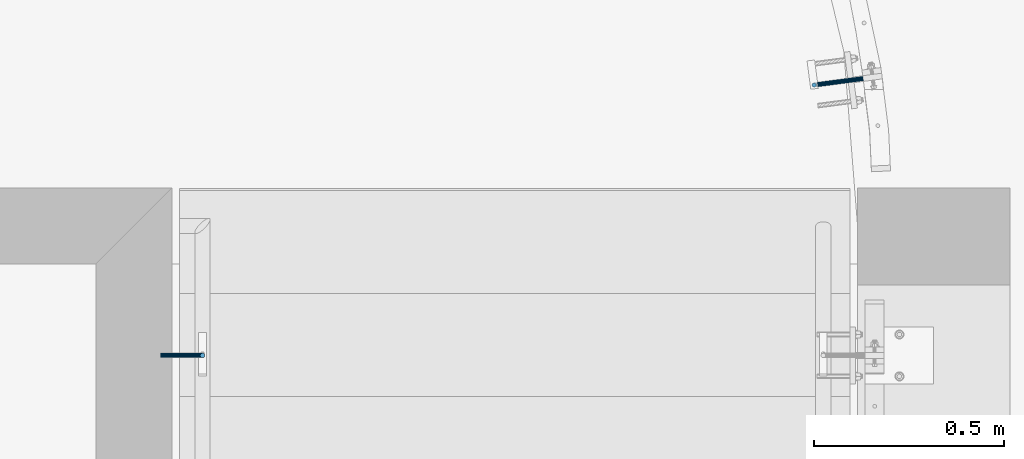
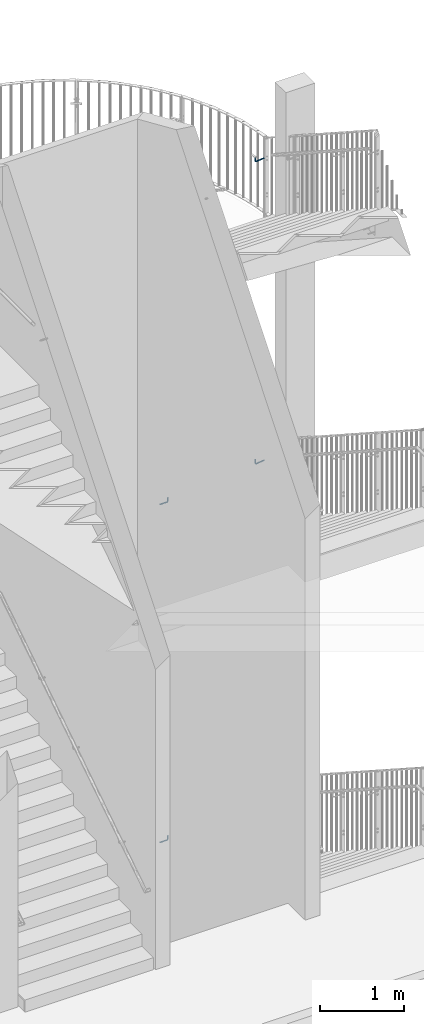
# One storey, part 143 of 296: 4 beams.
"""IFC2X3 building model written with IfcOpenShell, lengths in millimetres."""

from ifc_helpers import new_model, entity, si_unit, converted_unit, origin_with_axes, place, context, project, spatial, faceted_brep, material, element, save


model = new_model("IFC2X3")

# Units and contexts
model_context = context("Model", 3, precision=1e-09, world=origin_with_axes())
ifc_project = project(units=[si_unit("LENGTHUNIT", "METRE", prefix="MILLI"), si_unit("AREAUNIT", "SQUARE_METRE"), si_unit("VOLUMEUNIT", "CUBIC_METRE"), converted_unit("PLANEANGLEUNIT", "DEGREE", entity("IfcPlaneAngleMeasure", 0.01745329), si_unit("PLANEANGLEUNIT", "RADIAN"), dimensions=[0, 0, 0, 0, 0, 0, 0])], contexts=[model_context])

# Site, building, storey
site_placement = place(None, origin_with_axes())
site = spatial("IfcSite", under=ifc_project, at=site_placement, Name="TZD-S?d | Treppenhausgel?nder", CompositionType="ELEMENT")
building_placement = place(site_placement, origin_with_axes())
building = spatial("IfcBuilding", under=site, at=building_placement, Name="Struktur 1", CompositionType="ELEMENT")
storey_placement = place(building_placement, origin_with_axes())
storey = spatial("IfcBuildingStorey", under=building, at=storey_placement, Name="Default Storey", CompositionType="ELEMENT", Elevation=0.0)

# Beams
ifc_material = material(Name="S235JR")
beam_1_placement = place(None, origin_with_axes())
element("IfcBeam", 1, at=beam_1_placement, inside=storey, material=ifc_material, Name="-", ObjectType="-", context=model_context, shape_type="Brep", body=[
    faceted_brep([(5730.550029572, 267.041754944, 12585.0), (5732.093613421, 265.281634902, 12585.0), (5734.193267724, 264.246199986, 12585.0), (5736.529339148, 264.093085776, 12585.0), (5738.746181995, 264.845602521, 12585.0), (5740.506302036, 266.38918637, 12585.0), (5741.541736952, 268.488840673, 12585.0), (5741.694851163, 270.824912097, 12585.0), (5740.942334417, 273.041754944, 12585.0), (5739.398750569, 274.801874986, 12585.0), (5737.299096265, 275.837309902, 12585.0), (5734.963024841, 275.990424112, 12585.0), (5732.746181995, 275.237907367, 12585.0), (5730.986061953, 273.694323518, 12585.0), (5729.950627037, 271.594669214, 12585.0), (5729.797512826, 269.258597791, 12585.0), (5865.187789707, 282.803815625, 12515.757359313), (5864.933715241, 284.733702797, 12514.456722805), (5864.634013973, 287.010159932, 12514.0), (5864.334312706, 289.286617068, 12514.456722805), (5864.080238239, 291.21650424, 12515.757359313), (5863.910471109, 292.506013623, 12517.703899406), (5863.85085682, 292.958829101, 12520.0), (5863.910471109, 292.506013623, 12522.296100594), (5864.080238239, 291.21650424, 12524.242640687), (5864.334312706, 289.286617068, 12525.543277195), (5864.634013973, 287.010159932, 12526.0), (5864.933715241, 284.733702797, 12525.543277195), (5865.187789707, 282.803815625, 12524.242640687), (5865.357556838, 281.514306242, 12522.296100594), (5865.417171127, 281.061490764, 12520.0), (5865.357556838, 281.514306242, 12517.703899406), (5730.550029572, 267.041754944, 12540.0), (5732.093613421, 265.281634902, 12540.0), (5734.193267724, 264.246199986, 12540.0), (5736.529339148, 264.093085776, 12540.0), (5738.746181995, 264.845602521, 12540.0), (5740.506302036, 266.38918637, 12540.0), (5741.541736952, 268.488840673, 12540.0), (5741.694851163, 270.824912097, 12540.0), (5740.942334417, 273.041754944, 12540.0), (5739.398750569, 274.801874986, 12540.0), (5737.299096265, 275.837309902, 12540.0), (5734.963024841, 275.990424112, 12540.0), (5732.746181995, 275.237907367, 12540.0), (5730.986061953, 273.694323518, 12540.0), (5729.950627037, 271.594669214, 12540.0), (5729.797512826, 269.258597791, 12540.0), (5732.477761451, 267.29554566, 12530.225011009), (5733.923187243, 265.522502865, 12530.722743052), (5735.875937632, 264.467727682, 12531.467651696), (5738.038724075, 264.291800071, 12532.346331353), (5740.08228194, 265.021503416, 12533.225011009), (5741.695498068, 266.545746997, 12533.969919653), (5742.632774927, 268.632478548, 12534.467651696), (5742.751420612, 270.964012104, 12534.642431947), (5742.033372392, 273.185392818, 12534.467651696), (5740.5879466, 274.958435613, 12533.969919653), (5738.635196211, 276.013210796, 12533.225011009), (5736.472409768, 276.189138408, 12532.346331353), (5734.428851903, 275.459435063, 12531.467651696), (5732.815635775, 273.935191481, 12530.722743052), (5731.878358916, 271.848459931, 12530.225011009), (5731.759713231, 269.516926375, 12530.050230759), (5737.967477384, 268.018280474, 12521.938175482), (5739.133372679, 266.208436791, 12522.857864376), (5740.667776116, 265.098585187, 12524.234276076), (5742.337088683, 264.857690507, 12525.857864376), (5743.887172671, 265.522426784, 12527.481452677), (5745.082041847, 266.991593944, 12528.857864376), (5745.739788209, 269.041524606, 12529.777553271), (5745.760275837, 271.360135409, 12530.100505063), (5745.140385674, 273.594438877, 12529.777553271), (5743.974490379, 275.40428256, 12528.857864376), (5742.440086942, 276.514134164, 12527.481452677), (5740.770774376, 276.755028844, 12525.857864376), (5739.220690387, 276.090292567, 12524.234276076), (5738.025821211, 274.621125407, 12522.857864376), (5737.368074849, 272.571194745, 12521.938175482), (5737.347587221, 270.252583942, 12521.615223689), (5746.183417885, 269.099929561, 12516.401089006), (5746.930966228, 267.235009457, 12517.602720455), (5747.839269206, 266.042730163, 12519.401089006), (5748.770045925, 265.704605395, 12521.52240935), (5749.581594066, 266.272111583, 12523.643729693), (5750.150362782, 267.658851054, 12525.442098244), (5750.389762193, 269.653705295, 12526.643729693), (5750.263345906, 271.952975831, 12527.065686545), (5749.790359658, 274.206619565, 12526.643729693), (5749.042811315, 276.07153967, 12525.442098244), (5748.134508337, 277.263818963, 12523.643729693), (5747.203731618, 277.601943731, 12521.52240935), (5746.392183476, 277.034437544, 12519.401089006), (5745.82341476, 275.647698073, 12517.602720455), (5745.58401535, 273.652843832, 12516.401089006), (5745.710431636, 271.353573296, 12515.979132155), (5755.87478049, 270.375821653, 12514.456722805), (5756.128854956, 268.44593448, 12515.757359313), (5756.298622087, 267.156425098, 12517.703899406), (5756.358236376, 266.70360962, 12520.0), (5756.298622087, 267.156425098, 12522.296100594), (5756.128854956, 268.44593448, 12524.242640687), (5755.87478049, 270.375821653, 12525.543277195), (5755.575079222, 272.652278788, 12526.0), (5755.275377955, 274.928735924, 12525.543277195), (5755.021303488, 276.858623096, 12524.242640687), (5754.851536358, 278.148132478, 12522.296100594), (5754.791922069, 278.600947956, 12520.0), (5754.851536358, 278.148132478, 12517.703899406), (5755.021303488, 276.858623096, 12515.757359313), (5755.275377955, 274.928735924, 12514.456722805), (5755.575079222, 272.652278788, 12514.0)], [[[0, 1, 2, 3, 4, 5, 6, 7, 8, 9, 10, 11, 12, 13, 14, 15]], [[16, 17, 18, 19, 20, 21, 22, 23, 24, 25, 26, 27, 28, 29, 30, 31]], [[1, 0, 32, 33]], [[2, 1, 33, 34]], [[3, 2, 34, 35]], [[4, 3, 35, 36]], [[5, 4, 36, 37]], [[6, 5, 37, 38]], [[7, 6, 38, 39]], [[8, 7, 39, 40]], [[9, 8, 40, 41]], [[10, 9, 41, 42]], [[11, 10, 42, 43]], [[12, 11, 43, 44]], [[13, 12, 44, 45]], [[14, 13, 45, 46]], [[15, 14, 46, 47]], [[0, 15, 47, 32]], [[33, 32, 48, 49]], [[34, 33, 49, 50]], [[35, 34, 50, 51]], [[36, 35, 51, 52]], [[37, 36, 52, 53]], [[38, 37, 53, 54]], [[39, 38, 54, 55]], [[40, 39, 55, 56]], [[41, 40, 56, 57]], [[42, 41, 57, 58]], [[43, 42, 58, 59]], [[44, 43, 59, 60]], [[45, 44, 60, 61]], [[46, 45, 61, 62]], [[47, 46, 62, 63]], [[32, 47, 63, 48]], [[49, 48, 64, 65]], [[50, 49, 65, 66]], [[51, 50, 66, 67]], [[52, 51, 67, 68]], [[53, 52, 68, 69]], [[54, 53, 69, 70]], [[55, 54, 70, 71]], [[56, 55, 71, 72]], [[57, 56, 72, 73]], [[58, 57, 73, 74]], [[59, 58, 74, 75]], [[60, 59, 75, 76]], [[61, 60, 76, 77]], [[62, 61, 77, 78]], [[63, 62, 78, 79]], [[48, 63, 79, 64]], [[65, 64, 80, 81]], [[66, 65, 81, 82]], [[67, 66, 82, 83]], [[68, 67, 83, 84]], [[69, 68, 84, 85]], [[70, 69, 85, 86]], [[71, 70, 86, 87]], [[72, 71, 87, 88]], [[73, 72, 88, 89]], [[74, 73, 89, 90]], [[75, 74, 90, 91]], [[76, 75, 91, 92]], [[77, 76, 92, 93]], [[78, 77, 93, 94]], [[79, 78, 94, 95]], [[64, 79, 95, 80]], [[81, 80, 96, 97]], [[82, 81, 97, 98]], [[83, 82, 98, 99]], [[84, 83, 99, 100]], [[85, 84, 100, 101]], [[86, 85, 101, 102]], [[87, 86, 102, 103]], [[88, 87, 103, 104]], [[89, 88, 104, 105]], [[90, 89, 105, 106]], [[91, 90, 106, 107]], [[92, 91, 107, 108]], [[93, 92, 108, 109]], [[94, 93, 109, 110]], [[95, 94, 110, 111]], [[80, 95, 111, 96]], [[97, 96, 17, 16]], [[98, 97, 16, 31]], [[99, 98, 31, 30]], [[100, 99, 30, 29]], [[101, 100, 29, 28]], [[102, 101, 28, 27]], [[103, 102, 27, 26]], [[104, 103, 26, 25]], [[105, 104, 25, 24]], [[106, 105, 24, 23]], [[107, 106, 23, 22]], [[108, 107, 22, 21]], [[109, 108, 21, 20]], [[110, 109, 20, 19]], [[111, 110, 19, 18]], [[96, 111, 18, 17]]]),
])
beam_2_placement = place(None, origin_with_axes())
element("IfcBeam", 2, at=beam_2_placement, inside=storey, material=ifc_material, Name="-", ObjectType="-", context=model_context, shape_type="Brep", body=[
    faceted_brep([(5730.550029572, 267.041754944, 8210.0), (5732.093613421, 265.281634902, 8210.0), (5734.193267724, 264.246199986, 8210.0), (5736.529339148, 264.093085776, 8210.0), (5738.746181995, 264.845602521, 8210.0), (5740.506302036, 266.38918637, 8210.0), (5741.541736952, 268.488840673, 8210.0), (5741.694851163, 270.824912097, 8210.0), (5740.942334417, 273.041754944, 8210.0), (5739.398750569, 274.801874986, 8210.0), (5737.299096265, 275.837309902, 8210.0), (5734.963024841, 275.990424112, 8210.0), (5732.746181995, 275.237907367, 8210.0), (5730.986061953, 273.694323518, 8210.0), (5729.950627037, 271.594669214, 8210.0), (5729.797512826, 269.258597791, 8210.0), (5865.187789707, 282.803815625, 8140.757359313), (5864.933715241, 284.733702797, 8139.456722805), (5864.634013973, 287.010159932, 8139.0), (5864.334312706, 289.286617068, 8139.456722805), (5864.080238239, 291.21650424, 8140.757359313), (5863.910471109, 292.506013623, 8142.703899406), (5863.85085682, 292.958829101, 8145.0), (5863.910471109, 292.506013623, 8147.296100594), (5864.080238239, 291.21650424, 8149.242640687), (5864.334312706, 289.286617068, 8150.543277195), (5864.634013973, 287.010159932, 8151.0), (5864.933715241, 284.733702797, 8150.543277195), (5865.187789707, 282.803815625, 8149.242640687), (5865.357556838, 281.514306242, 8147.296100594), (5865.417171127, 281.061490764, 8145.0), (5865.357556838, 281.514306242, 8142.703899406), (5730.550029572, 267.041754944, 8165.0), (5732.093613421, 265.281634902, 8165.0), (5734.193267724, 264.246199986, 8165.0), (5736.529339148, 264.093085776, 8165.0), (5738.746181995, 264.845602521, 8165.0), (5740.506302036, 266.38918637, 8165.0), (5741.541736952, 268.488840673, 8165.0), (5741.694851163, 270.824912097, 8165.0), (5740.942334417, 273.041754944, 8165.0), (5739.398750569, 274.801874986, 8165.0), (5737.299096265, 275.837309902, 8165.0), (5734.963024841, 275.990424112, 8165.0), (5732.746181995, 275.237907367, 8165.0), (5730.986061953, 273.694323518, 8165.0), (5729.950627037, 271.594669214, 8165.0), (5729.797512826, 269.258597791, 8165.0), (5732.477761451, 267.29554566, 8155.225011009), (5733.923187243, 265.522502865, 8155.722743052), (5735.875937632, 264.467727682, 8156.467651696), (5738.038724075, 264.291800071, 8157.346331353), (5740.08228194, 265.021503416, 8158.225011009), (5741.695498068, 266.545746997, 8158.969919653), (5742.632774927, 268.632478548, 8159.467651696), (5742.751420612, 270.964012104, 8159.642431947), (5742.033372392, 273.185392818, 8159.467651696), (5740.5879466, 274.958435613, 8158.969919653), (5738.635196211, 276.013210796, 8158.225011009), (5736.472409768, 276.189138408, 8157.346331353), (5734.428851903, 275.459435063, 8156.467651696), (5732.815635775, 273.935191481, 8155.722743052), (5731.878358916, 271.848459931, 8155.225011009), (5731.759713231, 269.516926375, 8155.050230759), (5737.967477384, 268.018280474, 8146.938175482), (5739.133372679, 266.208436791, 8147.857864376), (5740.667776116, 265.098585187, 8149.234276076), (5742.337088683, 264.857690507, 8150.857864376), (5743.887172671, 265.522426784, 8152.481452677), (5745.082041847, 266.991593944, 8153.857864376), (5745.739788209, 269.041524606, 8154.777553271), (5745.760275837, 271.360135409, 8155.100505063), (5745.140385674, 273.594438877, 8154.777553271), (5743.974490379, 275.40428256, 8153.857864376), (5742.440086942, 276.514134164, 8152.481452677), (5740.770774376, 276.755028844, 8150.857864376), (5739.220690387, 276.090292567, 8149.234276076), (5738.025821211, 274.621125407, 8147.857864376), (5737.368074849, 272.571194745, 8146.938175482), (5737.347587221, 270.252583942, 8146.615223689), (5746.183417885, 269.099929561, 8141.401089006), (5746.930966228, 267.235009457, 8142.602720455), (5747.839269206, 266.042730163, 8144.401089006), (5748.770045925, 265.704605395, 8146.52240935), (5749.581594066, 266.272111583, 8148.643729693), (5750.150362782, 267.658851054, 8150.442098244), (5750.389762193, 269.653705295, 8151.643729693), (5750.263345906, 271.952975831, 8152.065686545), (5749.790359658, 274.206619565, 8151.643729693), (5749.042811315, 276.07153967, 8150.442098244), (5748.134508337, 277.263818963, 8148.643729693), (5747.203731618, 277.601943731, 8146.52240935), (5746.392183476, 277.034437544, 8144.401089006), (5745.82341476, 275.647698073, 8142.602720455), (5745.58401535, 273.652843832, 8141.401089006), (5745.710431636, 271.353573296, 8140.979132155), (5755.87478049, 270.375821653, 8139.456722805), (5756.128854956, 268.44593448, 8140.757359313), (5756.298622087, 267.156425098, 8142.703899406), (5756.358236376, 266.70360962, 8145.0), (5756.298622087, 267.156425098, 8147.296100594), (5756.128854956, 268.44593448, 8149.242640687), (5755.87478049, 270.375821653, 8150.543277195), (5755.575079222, 272.652278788, 8151.0), (5755.275377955, 274.928735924, 8150.543277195), (5755.021303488, 276.858623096, 8149.242640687), (5754.851536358, 278.148132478, 8147.296100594), (5754.791922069, 278.600947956, 8145.0), (5754.851536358, 278.148132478, 8142.703899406), (5755.021303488, 276.858623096, 8140.757359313), (5755.275377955, 274.928735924, 8139.456722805), (5755.575079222, 272.652278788, 8139.0)], [[[0, 1, 2, 3, 4, 5, 6, 7, 8, 9, 10, 11, 12, 13, 14, 15]], [[16, 17, 18, 19, 20, 21, 22, 23, 24, 25, 26, 27, 28, 29, 30, 31]], [[1, 0, 32, 33]], [[2, 1, 33, 34]], [[3, 2, 34, 35]], [[4, 3, 35, 36]], [[5, 4, 36, 37]], [[6, 5, 37, 38]], [[7, 6, 38, 39]], [[8, 7, 39, 40]], [[9, 8, 40, 41]], [[10, 9, 41, 42]], [[11, 10, 42, 43]], [[12, 11, 43, 44]], [[13, 12, 44, 45]], [[14, 13, 45, 46]], [[15, 14, 46, 47]], [[0, 15, 47, 32]], [[33, 32, 48, 49]], [[34, 33, 49, 50]], [[35, 34, 50, 51]], [[36, 35, 51, 52]], [[37, 36, 52, 53]], [[38, 37, 53, 54]], [[39, 38, 54, 55]], [[40, 39, 55, 56]], [[41, 40, 56, 57]], [[42, 41, 57, 58]], [[43, 42, 58, 59]], [[44, 43, 59, 60]], [[45, 44, 60, 61]], [[46, 45, 61, 62]], [[47, 46, 62, 63]], [[32, 47, 63, 48]], [[49, 48, 64, 65]], [[50, 49, 65, 66]], [[51, 50, 66, 67]], [[52, 51, 67, 68]], [[53, 52, 68, 69]], [[54, 53, 69, 70]], [[55, 54, 70, 71]], [[56, 55, 71, 72]], [[57, 56, 72, 73]], [[58, 57, 73, 74]], [[59, 58, 74, 75]], [[60, 59, 75, 76]], [[61, 60, 76, 77]], [[62, 61, 77, 78]], [[63, 62, 78, 79]], [[48, 63, 79, 64]], [[65, 64, 80, 81]], [[66, 65, 81, 82]], [[67, 66, 82, 83]], [[68, 67, 83, 84]], [[69, 68, 84, 85]], [[70, 69, 85, 86]], [[71, 70, 86, 87]], [[72, 71, 87, 88]], [[73, 72, 88, 89]], [[74, 73, 89, 90]], [[75, 74, 90, 91]], [[76, 75, 91, 92]], [[77, 76, 92, 93]], [[78, 77, 93, 94]], [[79, 78, 94, 95]], [[64, 79, 95, 80]], [[81, 80, 96, 97]], [[82, 81, 97, 98]], [[83, 82, 98, 99]], [[84, 83, 99, 100]], [[85, 84, 100, 101]], [[86, 85, 101, 102]], [[87, 86, 102, 103]], [[88, 87, 103, 104]], [[89, 88, 104, 105]], [[90, 89, 105, 106]], [[91, 90, 106, 107]], [[92, 91, 107, 108]], [[93, 92, 108, 109]], [[94, 93, 109, 110]], [[95, 94, 110, 111]], [[80, 95, 111, 96]], [[97, 96, 17, 16]], [[98, 97, 16, 31]], [[99, 98, 31, 30]], [[100, 99, 30, 29]], [[101, 100, 29, 28]], [[102, 101, 28, 27]], [[103, 102, 27, 26]], [[104, 103, 26, 25]], [[105, 104, 25, 24]], [[106, 105, 24, 23]], [[107, 106, 23, 22]], [[108, 107, 22, 21]], [[109, 108, 21, 20]], [[110, 109, 20, 19]], [[111, 110, 19, 18]], [[96, 111, 18, 17]]]),
])
beam_3_placement = place(None, origin_with_axes())
element("IfcBeam", 3, at=beam_3_placement, inside=storey, material=ifc_material, Name="-", ObjectType="-", context=model_context, shape_type="Brep", body=[
    faceted_brep([(4133.105419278, -445.00183956, 8657.521152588), (4126.892580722, -445.00183956, 8657.521152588), (4127.702899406, -445.543277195, 8657.521152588), (4129.999, -446.0, 8657.521152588), (4132.295100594, -445.543277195, 8657.521152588), (4135.542277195, -442.296100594, 8655.76874811), (4134.241640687, -444.242640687, 8657.029448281), (4134.241640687, -444.242640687, 8612.521152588), (4135.542277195, -442.296100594, 8612.521152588), (4132.295100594, -445.543277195, 8612.521152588), (4129.999, -446.0, 8612.521152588), (4127.702899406, -445.543277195, 8612.521152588), (4125.756359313, -444.242640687, 8657.029448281), (4125.756359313, -444.242640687, 8612.521152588), (4124.455722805, -442.296100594, 8655.76874811), (4124.455722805, -442.296100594, 8612.521152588), (4123.999, -440.0, 8654.281650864), (4123.999, -440.0, 8612.521152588), (4124.455722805, -437.703899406, 8652.794553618), (4124.455722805, -437.703899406, 8612.521152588), (4125.756359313, -435.757359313, 8651.533853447), (4125.756359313, -435.757359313, 8612.521152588), (4127.702899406, -434.456722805, 8650.691480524), (4127.702899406, -434.456722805, 8612.521152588), (4129.999, -434.0, 8650.39567849), (4129.999, -434.0, 8612.521152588), (4132.295100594, -434.456722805, 8650.691480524), (4132.295100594, -434.456722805, 8612.521152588), (4134.241640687, -435.757359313, 8651.533853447), (4134.241640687, -435.757359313, 8612.521152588), (4135.542277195, -437.703899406, 8652.794553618), (4135.542277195, -437.703899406, 8612.521152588), (4135.999, -440.0, 8654.281650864), (4135.999, -440.0, 8612.521152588), (4019.999, -442.296100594, 8586.977875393), (4019.999, -444.242640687, 8588.278511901), (4019.999, -445.543277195, 8590.225051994), (4019.999, -446.0, 8592.521152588), (4019.999, -445.543277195, 8594.817253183), (4019.999, -444.242640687, 8596.763793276), (4019.999, -442.296100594, 8598.064429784), (4019.999, -440.0, 8598.521152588), (4019.999, -437.703899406, 8598.064429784), (4019.999, -435.757359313, 8596.763793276), (4019.999, -434.456722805, 8594.817253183), (4019.999, -434.0, 8592.521152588), (4019.999, -434.456722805, 8590.225051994), (4019.999, -435.757359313, 8588.278511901), (4019.999, -437.703899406, 8586.977875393), (4019.999, -440.0, 8586.521152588), (4132.396279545, -444.242640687, 8603.243895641), (4133.597910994, -442.296100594, 8602.746163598), (4130.597910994, -445.543277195, 8603.988804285), (4128.47659065, -446.0, 8604.867483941), (4126.355270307, -445.543277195, 8605.746163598), (4124.556901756, -444.242640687, 8606.491072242), (4123.355270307, -442.296100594, 8606.988804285), (4122.933313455, -440.0, 8607.163584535), (4123.355270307, -437.703899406, 8606.988804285), (4124.556901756, -435.757359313, 8606.491072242), (4126.355270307, -434.456722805, 8605.746163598), (4128.47659065, -434.0, 8604.867483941), (4130.597910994, -434.456722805, 8603.988804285), (4132.396279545, -435.757359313, 8603.243895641), (4133.597910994, -437.703899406, 8602.746163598), (4134.019867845, -440.0, 8602.571383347), (4127.141135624, -444.242640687, 8595.379016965), (4128.060824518, -442.296100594, 8594.45932807), (4125.764723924, -445.543277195, 8596.755428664), (4124.141135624, -446.0, 8598.379016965), (4122.517547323, -445.543277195, 8600.002605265), (4121.141135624, -444.242640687, 8601.379016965), (4120.221446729, -442.296100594, 8602.298705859), (4119.898494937, -440.0, 8602.621657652), (4120.221446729, -437.703899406, 8602.298705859), (4121.141135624, -435.757359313, 8601.379016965), (4122.517547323, -434.456722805, 8600.002605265), (4124.141135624, -434.0, 8598.379016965), (4125.764723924, -434.456722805, 8596.755428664), (4127.141135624, -435.757359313, 8595.379016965), (4128.060824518, -437.703899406, 8594.45932807), (4128.383776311, -440.0, 8594.136376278), (4119.276256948, -444.242640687, 8590.123873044), (4119.773988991, -442.296100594, 8588.922241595), (4118.531348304, -445.543277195, 8591.922241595), (4117.652668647, -446.0, 8594.043561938), (4116.773988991, -445.543277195, 8596.164882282), (4116.029080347, -444.242640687, 8597.963250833), (4115.531348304, -442.296100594, 8599.164882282), (4115.356568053, -440.0, 8599.586839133), (4115.531348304, -437.703899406, 8599.164882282), (4116.029080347, -435.757359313, 8597.963250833), (4116.773988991, -434.456722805, 8596.164882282), (4117.652668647, -434.0, 8594.043561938), (4118.531348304, -434.456722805, 8591.922241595), (4119.276256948, -435.757359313, 8590.123873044), (4119.773988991, -437.703899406, 8588.922241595), (4119.948769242, -440.0, 8588.500284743), (4109.999, -444.242640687, 8588.278511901), (4109.999, -442.296100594, 8586.977875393), (4109.999, -445.543277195, 8590.225051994), (4109.999, -446.0, 8592.521152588), (4109.999, -445.543277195, 8594.817253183), (4109.999, -444.242640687, 8596.763793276), (4109.999, -442.296100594, 8598.064429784), (4109.999, -440.0, 8598.521152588), (4109.999, -437.703899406, 8598.064429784), (4109.999, -435.757359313, 8596.763793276), (4109.999, -434.456722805, 8594.817253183), (4109.999, -434.0, 8592.521152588), (4109.999, -434.456722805, 8590.225051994), (4109.999, -435.757359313, 8588.278511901), (4109.999, -437.703899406, 8586.977875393), (4109.999, -440.0, 8586.521152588)], [[[0, 1, 2, 3, 4]], [[5, 6, 7, 8]], [[6, 0, 4, 9, 7]], [[4, 3, 10, 9]], [[3, 2, 11, 10]], [[1, 12, 13, 11, 2]], [[12, 14, 15, 13]], [[14, 16, 17, 15]], [[16, 18, 19, 17]], [[18, 20, 21, 19]], [[20, 22, 23, 21]], [[22, 24, 25, 23]], [[24, 26, 27, 25]], [[26, 28, 29, 27]], [[28, 30, 31, 29]], [[30, 32, 33, 31]], [[32, 5, 8, 33]], [[16, 14, 12, 1, 0, 6, 5, 32, 30, 28, 26, 24, 22, 20, 18]], [[34, 35, 36, 37, 38, 39, 40, 41, 42, 43, 44, 45, 46, 47, 48, 49]], [[8, 7, 50, 51]], [[7, 9, 52, 50]], [[9, 10, 53, 52]], [[10, 11, 54, 53]], [[11, 13, 55, 54]], [[13, 15, 56, 55]], [[15, 17, 57, 56]], [[17, 19, 58, 57]], [[19, 21, 59, 58]], [[21, 23, 60, 59]], [[23, 25, 61, 60]], [[25, 27, 62, 61]], [[27, 29, 63, 62]], [[29, 31, 64, 63]], [[31, 33, 65, 64]], [[33, 8, 51, 65]], [[51, 50, 66, 67]], [[50, 52, 68, 66]], [[52, 53, 69, 68]], [[53, 54, 70, 69]], [[54, 55, 71, 70]], [[55, 56, 72, 71]], [[56, 57, 73, 72]], [[57, 58, 74, 73]], [[58, 59, 75, 74]], [[59, 60, 76, 75]], [[60, 61, 77, 76]], [[61, 62, 78, 77]], [[62, 63, 79, 78]], [[63, 64, 80, 79]], [[64, 65, 81, 80]], [[65, 51, 67, 81]], [[67, 66, 82, 83]], [[66, 68, 84, 82]], [[68, 69, 85, 84]], [[69, 70, 86, 85]], [[70, 71, 87, 86]], [[71, 72, 88, 87]], [[72, 73, 89, 88]], [[73, 74, 90, 89]], [[74, 75, 91, 90]], [[75, 76, 92, 91]], [[76, 77, 93, 92]], [[77, 78, 94, 93]], [[78, 79, 95, 94]], [[79, 80, 96, 95]], [[80, 81, 97, 96]], [[81, 67, 83, 97]], [[83, 82, 98, 99]], [[82, 84, 100, 98]], [[84, 85, 101, 100]], [[85, 86, 102, 101]], [[86, 87, 103, 102]], [[87, 88, 104, 103]], [[88, 89, 105, 104]], [[89, 90, 106, 105]], [[90, 91, 107, 106]], [[91, 92, 108, 107]], [[92, 93, 109, 108]], [[93, 94, 110, 109]], [[94, 95, 111, 110]], [[95, 96, 112, 111]], [[96, 97, 113, 112]], [[97, 83, 99, 113]], [[99, 98, 35, 34]], [[98, 100, 36, 35]], [[100, 101, 37, 36]], [[101, 102, 38, 37]], [[102, 103, 39, 38]], [[103, 104, 40, 39]], [[104, 105, 41, 40]], [[105, 106, 42, 41]], [[106, 107, 43, 42]], [[107, 108, 44, 43]], [[108, 109, 45, 44]], [[109, 110, 46, 45]], [[110, 111, 47, 46]], [[111, 112, 48, 47]], [[112, 113, 49, 48]], [[113, 99, 34, 49]]]),
])
beam_4_placement = place(None, origin_with_axes())
element("IfcBeam", 4, at=beam_4_placement, inside=storey, material=ifc_material, Name="-", ObjectType="-", context=model_context, shape_type="Brep", body=[
    faceted_brep([(4133.105415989, -445.001841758, 3764.175393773), (4126.892584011, -445.001841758, 3764.175393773), (4127.702899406, -445.543277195, 3764.175393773), (4129.999, -446.0, 3764.175393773), (4132.295100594, -445.543277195, 3764.175393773), (4135.542277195, -442.296100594, 3762.425953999), (4134.241640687, -444.242640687, 3763.684520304), (4134.241640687, -444.242640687, 3719.175393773), (4135.542277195, -442.296100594, 3719.175393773), (4132.295100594, -445.543277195, 3719.175393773), (4129.999, -446.0, 3719.175393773), (4127.702899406, -445.543277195, 3719.175393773), (4125.756359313, -444.242640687, 3763.684520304), (4125.756359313, -444.242640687, 3719.175393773), (4124.455722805, -442.296100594, 3762.425953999), (4124.455722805, -442.296100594, 3719.175393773), (4123.999, -440.0, 3760.941373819), (4123.999, -440.0, 3719.175393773), (4124.455722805, -437.703899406, 3759.456793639), (4124.455722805, -437.703899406, 3719.175393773), (4125.756359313, -435.757359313, 3758.198227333), (4125.756359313, -435.757359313, 3719.175393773), (4127.702899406, -434.456722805, 3757.357280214), (4127.702899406, -434.456722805, 3719.175393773), (4129.999, -434.0, 3757.061978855), (4129.999, -434.0, 3719.175393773), (4132.295100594, -434.456722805, 3757.357280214), (4132.295100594, -434.456722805, 3719.175393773), (4134.241640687, -435.757359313, 3758.198227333), (4134.241640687, -435.757359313, 3719.175393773), (4135.542277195, -437.703899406, 3759.456793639), (4135.542277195, -437.703899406, 3719.175393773), (4135.999, -440.0, 3760.941373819), (4135.999, -440.0, 3719.175393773), (4019.999, -442.296100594, 3693.632116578), (4019.999, -444.242640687, 3694.932753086), (4019.999, -445.543277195, 3696.879293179), (4019.999, -446.0, 3699.175393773), (4019.999, -445.543277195, 3701.471494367), (4019.999, -444.242640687, 3703.41803446), (4019.999, -442.296100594, 3704.718670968), (4019.999, -440.0, 3705.175393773), (4019.999, -437.703899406, 3704.718670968), (4019.999, -435.757359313, 3703.41803446), (4019.999, -434.456722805, 3701.471494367), (4019.999, -434.0, 3699.175393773), (4019.999, -434.456722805, 3696.879293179), (4019.999, -435.757359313, 3694.932753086), (4019.999, -437.703899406, 3693.632116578), (4019.999, -440.0, 3693.175393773), (4132.396279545, -444.242640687, 3709.898136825), (4133.597910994, -442.296100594, 3709.400404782), (4130.597910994, -445.543277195, 3710.643045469), (4128.47659065, -446.0, 3711.521725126), (4126.355270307, -445.543277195, 3712.400404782), (4124.556901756, -444.242640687, 3713.145313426), (4123.355270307, -442.296100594, 3713.643045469), (4122.933313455, -440.0, 3713.81782572), (4123.355270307, -437.703899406, 3713.643045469), (4124.556901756, -435.757359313, 3713.145313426), (4126.355270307, -434.456722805, 3712.400404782), (4128.47659065, -434.0, 3711.521725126), (4130.597910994, -434.456722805, 3710.643045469), (4132.396279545, -435.757359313, 3709.898136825), (4133.597910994, -437.703899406, 3709.400404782), (4134.019867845, -440.0, 3709.225624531), (4127.141135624, -444.242640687, 3702.033258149), (4128.060824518, -442.296100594, 3701.113569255), (4125.764723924, -445.543277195, 3703.409669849), (4124.141135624, -446.0, 3705.033258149), (4122.517547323, -445.543277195, 3706.65684645), (4121.141135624, -444.242640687, 3708.033258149), (4120.221446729, -442.296100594, 3708.952947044), (4119.898494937, -440.0, 3709.275898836), (4120.221446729, -437.703899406, 3708.952947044), (4121.141135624, -435.757359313, 3708.033258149), (4122.517547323, -434.456722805, 3706.65684645), (4124.141135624, -434.0, 3705.033258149), (4125.764723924, -434.456722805, 3703.409669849), (4127.141135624, -435.757359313, 3702.033258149), (4128.060824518, -437.703899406, 3701.113569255), (4128.383776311, -440.0, 3700.790617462), (4119.276256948, -444.242640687, 3696.778114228), (4119.773988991, -442.296100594, 3695.576482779), (4118.531348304, -445.543277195, 3698.576482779), (4117.652668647, -446.0, 3700.697803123), (4116.773988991, -445.543277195, 3702.819123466), (4116.029080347, -444.242640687, 3704.617492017), (4115.531348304, -442.296100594, 3705.819123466), (4115.356568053, -440.0, 3706.241080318), (4115.531348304, -437.703899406, 3705.819123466), (4116.029080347, -435.757359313, 3704.617492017), (4116.773988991, -434.456722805, 3702.819123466), (4117.652668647, -434.0, 3700.697803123), (4118.531348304, -434.456722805, 3698.576482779), (4119.276256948, -435.757359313, 3696.778114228), (4119.773988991, -437.703899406, 3695.576482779), (4119.948769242, -440.0, 3695.154525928), (4109.999, -444.242640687, 3694.932753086), (4109.999, -442.296100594, 3693.632116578), (4109.999, -445.543277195, 3696.879293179), (4109.999, -446.0, 3699.175393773), (4109.999, -445.543277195, 3701.471494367), (4109.999, -444.242640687, 3703.41803446), (4109.999, -442.296100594, 3704.718670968), (4109.999, -440.0, 3705.175393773), (4109.999, -437.703899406, 3704.718670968), (4109.999, -435.757359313, 3703.41803446), (4109.999, -434.456722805, 3701.471494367), (4109.999, -434.0, 3699.175393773), (4109.999, -434.456722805, 3696.879293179), (4109.999, -435.757359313, 3694.932753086), (4109.999, -437.703899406, 3693.632116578), (4109.999, -440.0, 3693.175393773)], [[[0, 1, 2, 3, 4]], [[5, 6, 7, 8]], [[6, 0, 4, 9, 7]], [[4, 3, 10, 9]], [[3, 2, 11, 10]], [[1, 12, 13, 11, 2]], [[12, 14, 15, 13]], [[14, 16, 17, 15]], [[16, 18, 19, 17]], [[18, 20, 21, 19]], [[20, 22, 23, 21]], [[22, 24, 25, 23]], [[24, 26, 27, 25]], [[26, 28, 29, 27]], [[28, 30, 31, 29]], [[30, 32, 33, 31]], [[32, 5, 8, 33]], [[16, 14, 12, 1, 0, 6, 5, 32, 30, 28, 26, 24, 22, 20, 18]], [[34, 35, 36, 37, 38, 39, 40, 41, 42, 43, 44, 45, 46, 47, 48, 49]], [[8, 7, 50, 51]], [[7, 9, 52, 50]], [[9, 10, 53, 52]], [[10, 11, 54, 53]], [[11, 13, 55, 54]], [[13, 15, 56, 55]], [[15, 17, 57, 56]], [[17, 19, 58, 57]], [[19, 21, 59, 58]], [[21, 23, 60, 59]], [[23, 25, 61, 60]], [[25, 27, 62, 61]], [[27, 29, 63, 62]], [[29, 31, 64, 63]], [[31, 33, 65, 64]], [[33, 8, 51, 65]], [[51, 50, 66, 67]], [[50, 52, 68, 66]], [[52, 53, 69, 68]], [[53, 54, 70, 69]], [[54, 55, 71, 70]], [[55, 56, 72, 71]], [[56, 57, 73, 72]], [[57, 58, 74, 73]], [[58, 59, 75, 74]], [[59, 60, 76, 75]], [[60, 61, 77, 76]], [[61, 62, 78, 77]], [[62, 63, 79, 78]], [[63, 64, 80, 79]], [[64, 65, 81, 80]], [[65, 51, 67, 81]], [[67, 66, 82, 83]], [[66, 68, 84, 82]], [[68, 69, 85, 84]], [[69, 70, 86, 85]], [[70, 71, 87, 86]], [[71, 72, 88, 87]], [[72, 73, 89, 88]], [[73, 74, 90, 89]], [[74, 75, 91, 90]], [[75, 76, 92, 91]], [[76, 77, 93, 92]], [[77, 78, 94, 93]], [[78, 79, 95, 94]], [[79, 80, 96, 95]], [[80, 81, 97, 96]], [[81, 67, 83, 97]], [[83, 82, 98, 99]], [[82, 84, 100, 98]], [[84, 85, 101, 100]], [[85, 86, 102, 101]], [[86, 87, 103, 102]], [[87, 88, 104, 103]], [[88, 89, 105, 104]], [[89, 90, 106, 105]], [[90, 91, 107, 106]], [[91, 92, 108, 107]], [[92, 93, 109, 108]], [[93, 94, 110, 109]], [[94, 95, 111, 110]], [[95, 96, 112, 111]], [[96, 97, 113, 112]], [[97, 83, 99, 113]], [[99, 98, 35, 34]], [[98, 100, 36, 35]], [[100, 101, 37, 36]], [[101, 102, 38, 37]], [[102, 103, 39, 38]], [[103, 104, 40, 39]], [[104, 105, 41, 40]], [[105, 106, 42, 41]], [[106, 107, 43, 42]], [[107, 108, 44, 43]], [[108, 109, 45, 44]], [[109, 110, 46, 45]], [[110, 111, 47, 46]], [[111, 112, 48, 47]], [[112, 113, 49, 48]], [[113, 99, 34, 49]]]),
])

save(model, "model.ifc")
